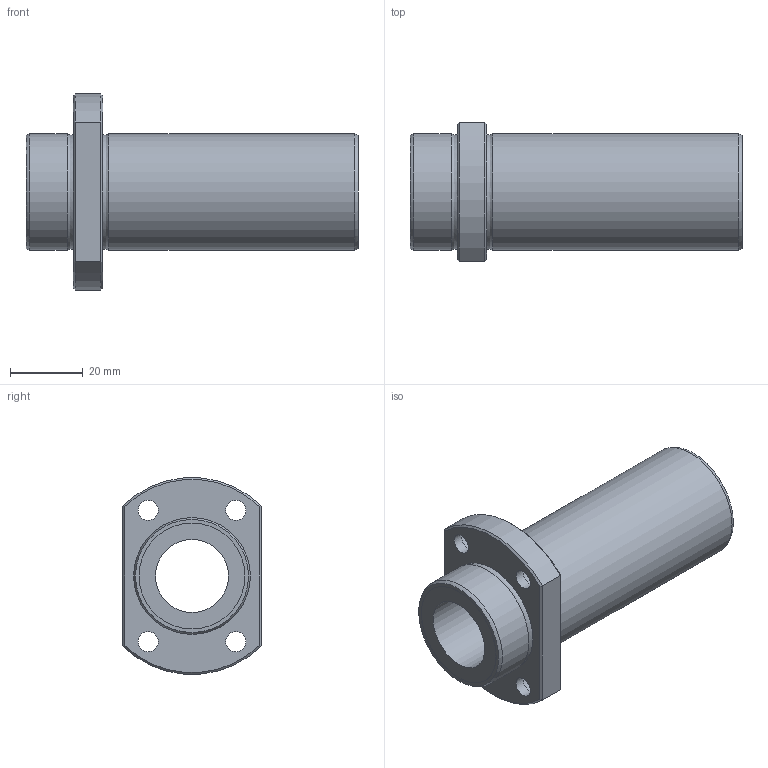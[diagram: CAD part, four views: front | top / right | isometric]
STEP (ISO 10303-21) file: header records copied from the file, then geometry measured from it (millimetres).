
FILE_DESCRIPTION((''),'2;1');
FILE_NAME('D:\製品 (図面)\カタログ用3D\メンテナンスフリー関連\STEP形式\LFDTB-MF\LFDTB20MF.stp','2010-06-01T15:46:57',('Tsuchiya'),(''),'Autodesk Inventor 10','Autodesk Inventor 10','');
FILE_SCHEMA(('AUTOMOTIVE_DESIGN { 1 0 10303 214 1 1 1 1 }'));
Length unit declared in the file: millimetre
Products named in the file (1): LFDTB20MF
Bounding box: 91 x 38 x 53.8 mm (x, y, z)
Volume: 51239.3 mm3; surface area: 18949.3 mm2
Topology: 1 solids, 1 shells, 39 faces, 75 edges, 46 vertices
Faces by surface type: bspline 14, plane 12, cylinder 7, cone 4, torus 2
Full cylindrical faces by diameter (mm): 20 x1, 29 x2, 32 x2
Entity records: 1177 total; most frequent: CARTESIAN_POINT 440, DIRECTION 140, ORIENTED_EDGE 116, EDGE_LOOP 74, AXIS2_PLACEMENT_3D 64, EDGE_CURVE 58, VERTEX_POINT 46, FACE_OUTER_BOUND 39
